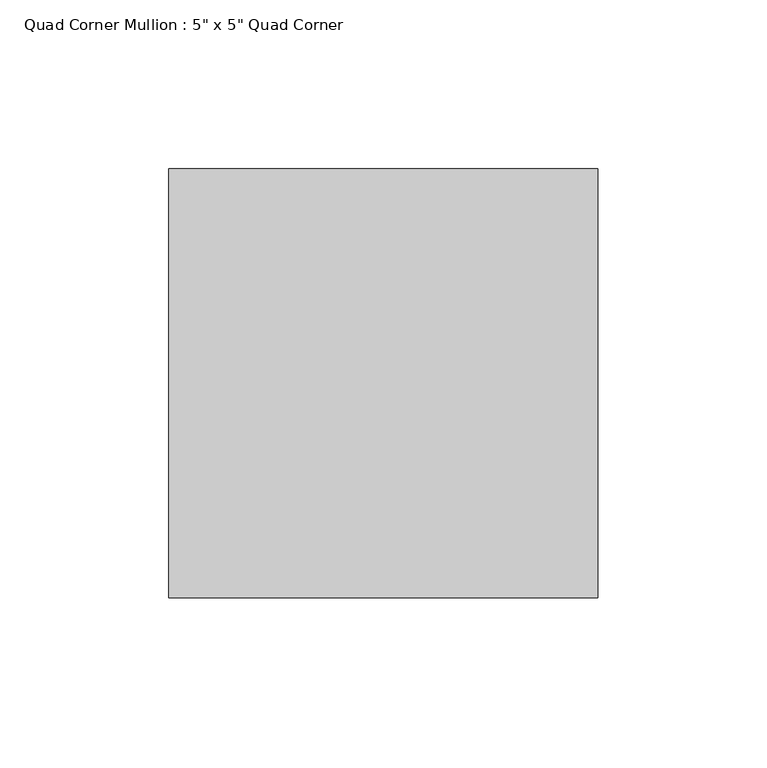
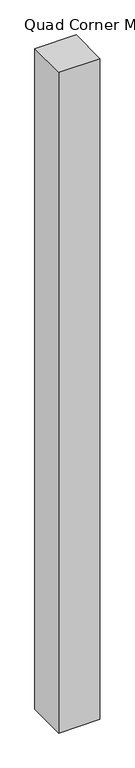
"""IFC4 building model written with IfcOpenShell, lengths in millimetres: member geometry."""

from ifc_helpers import new_model, si_unit, frame, origin, place, context, project, spatial, polyline, outline, extrude, source, transform, mapped, element, save


def member_d93b5226(model_context):
    return source(origin(), model_context, "Body", "SweptSolid", [
        extrude(outline(polyline([(63.5, 63.5), (63.5, -63.5), (-63.5, -63.5), (-63.5, 63.5), (63.5, 63.5)])), frame((0.0, 0.0, -2156.4403385), z_axis=(0.0, 0.0, 1.0), x_axis=(1.0, 0.0, 0.0)), (0.0, 0.0, 1.0), 2156.4403385),
    ])


if __name__ == "__main__":
    model = new_model("IFC4")
    model_context = context("Model", 3, world=origin())
    ifc_project = project(units=[si_unit("LENGTHUNIT", "METRE", prefix="MILLI")], contexts=[model_context])
    site = spatial("IfcSite", under=ifc_project)
    building = spatial("IfcBuilding", under=site)
    placement = place(None, origin())
    member_shape = member_d93b5226(model_context)
    element("IfcMember", 1, ObjectType="Quad Corner Mullion : 5\" x 5\" Quad Corner", at=placement, inside=building, context=model_context, shape_type="MappedRepresentation", body=[
        mapped(member_shape, transform((0.0, 0.0, 0.0), x_axis=(1.0, 0.0, 0.0), y_axis=(0.0, 1.0, 0.0), z_axis=(0.0, 0.0, 1.0))),
    ])
    save(model, "model.ifc")
